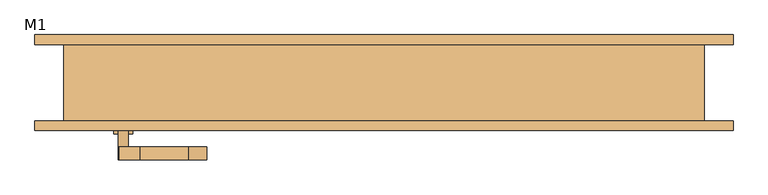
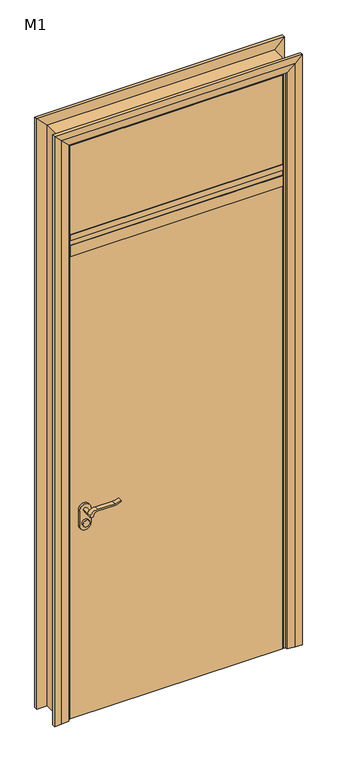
"""IFC4 building model written with IfcOpenShell, lengths in millimetres: door geometry, 单嵌板木门 13 : M1."""

from ifc_helpers import new_model, si_unit, point, frame, frame_2d, origin, origin_with_axes, place, context, project, spatial, polyline, circle_curve, trimmed, segment, composite_curve, outline, extrude, faceted_brep, source, transform, mapped, element, save


def m1_00d12191(model_context):
    return source(origin(), model_context, "Body", "SolidModel", [
        extrude(outline(composite_curve([segment(trimmed(circle_curve(frame_2d((900.0, -407.0)), 15.0), [point((900.0, -392.0))], [point((900.0, -422.0))], False, "CARTESIAN"), True, "CONTINUOUS"), segment(trimmed(circle_curve(frame_2d((900.0, -407.0)), 15.0), [point((900.0, -422.0))], [point((900.0, -392.0))], False, "CARTESIAN"), True, "CONTINUOUS")], self_intersect=False)), frame((0.0, -80.0, 0.0), z_axis=(0.0, 1.0, 0.0), x_axis=(0.0, 0.0, 1.0)), (0.0, 0.0, 1.0), 10.0),
        extrude(outline(composite_curve([segment(trimmed(circle_curve(frame_2d((900.0, -407.0)), 15.0), [point((900.0, -392.0))], [point((900.0, -422.0))], False, "CARTESIAN"), True, "CONTINUOUS"), segment(trimmed(circle_curve(frame_2d((900.0, -407.0)), 15.0), [point((900.0, -422.0))], [point((900.0, -392.0))], False, "CARTESIAN"), True, "CONTINUOUS")], self_intersect=False)), frame((0.0, 0.0, 0.0), z_axis=(0.0, 1.0, 0.0), x_axis=(0.0, 0.0, 1.0)), (0.0, 0.0, 1.0), 10.0),
        extrude(outline(composite_curve([segment(trimmed(circle_curve(frame_2d((960.0, -407.0)), 8.0), [point((964.6523287, -413.5081363))], [point((960.0, -399.0))], False, "CARTESIAN"), True, "CONTINUOUS"), segment(trimmed(circle_curve(frame_2d((954.8738613, -381.6138099)), 18.1261387), [point((960.0, -399.0))], [point((973.0, -381.6138099))], True, "CARTESIAN"), True, "CONTINUOUS"), segment(polyline([(973.0, -381.6138099), (973.0, -305.3564091)]), True, "CONTINUOUS"), segment(trimmed(circle_curve(frame_2d((1032.2709207, -308.9396612)), 59.3791355), [point((973.0, -305.3564091))], [point((982.2135558, -277.0))], False, "CARTESIAN"), True, "CONTINUOUS"), segment(polyline([(982.2135558, -277.0), (985.0, -277.0)]), True, "CONTINUOUS"), segment(trimmed(circle_curve(frame_2d((1063.2850638, -305.4227909)), 83.2850902), [point((985.0, -277.0))], [point((980.0, -305.3564091))], True, "CARTESIAN"), True, "CONTINUOUS"), segment(polyline([(980.0, -305.3564091), (980.0, -381.6325667)]), True, "CONTINUOUS"), segment(trimmed(circle_curve(frame_2d((942.7555521, -383.3324871)), 37.2832219), [point((980.0, -381.6325667))], [point((964.6523287, -413.5081363))], False, "CARTESIAN"), True, "CONTINUOUS")], self_intersect=False)), frame((0.0, -120.0, 0.0), z_axis=(0.0, 1.0, 0.0), x_axis=(0.0, 0.0, 1.0)), (0.0, 0.0, 1.0), 20.0),
        extrude(outline(composite_curve([segment(trimmed(circle_curve(frame_2d((954.8738682, -381.6138122)), 18.1261318), [point((959.9999903, -399.0))], [point((973.0, -381.6138122))], True, "CARTESIAN"), True, "CONTINUOUS"), segment(polyline([(973.0, -381.6138122), (973.0, -305.3564091)]), True, "CONTINUOUS"), segment(trimmed(circle_curve(frame_2d((1032.2709207, -308.9396612)), 59.3791355), [point((973.0, -305.3564091))], [point((982.2135558, -277.0))], False, "CARTESIAN"), True, "CONTINUOUS"), segment(polyline([(982.2135558, -277.0), (985.0, -277.0)]), True, "CONTINUOUS"), segment(trimmed(circle_curve(frame_2d((1063.2850638, -305.4227909)), 83.2850902), [point((985.0, -277.0))], [point((980.0, -305.3564091))], True, "CARTESIAN"), True, "CONTINUOUS"), segment(polyline([(980.0, -305.3564091), (980.0, -381.6325667)]), True, "CONTINUOUS"), segment(trimmed(circle_curve(frame_2d((942.7555521, -383.3324871)), 37.2832219), [point((980.0, -381.6325667))], [point((964.6523287, -413.5081363))], False, "CARTESIAN"), True, "CONTINUOUS"), segment(trimmed(circle_curve(frame_2d((960.0, -407.0)), 8.0), [point((964.6523287, -413.5081363))], [point((959.9999903, -399.0))], False, "CARTESIAN"), True, "CONTINUOUS")], self_intersect=False)), frame((0.0, 30.0, 0.0), z_axis=(0.0, 1.0, 0.0), x_axis=(0.0, 0.0, 1.0)), (0.0, 0.0, 1.0), 20.0),
        extrude(outline(composite_curve([segment(trimmed(circle_curve(frame_2d((960.0, -407.0)), 8.0), [point((960.0, -399.0))], [point((960.0, -415.0))], False, "CARTESIAN"), True, "CONTINUOUS"), segment(trimmed(circle_curve(frame_2d((960.0, -407.0)), 8.0), [point((960.0, -415.0))], [point((960.0, -399.0))], False, "CARTESIAN"), True, "CONTINUOUS")], self_intersect=False)), frame((0.0, -100.0, 0.0), z_axis=(0.0, 1.0, 0.0), x_axis=(0.0, 0.0, 1.0)), (0.0, 0.0, 1.0), 30.0),
        extrude(outline(composite_curve([segment(trimmed(circle_curve(frame_2d((960.0, -407.0)), 8.0), [point((960.0, -399.0))], [point((960.0, -415.0))], False, "CARTESIAN"), True, "CONTINUOUS"), segment(trimmed(circle_curve(frame_2d((960.0, -407.0)), 8.0), [point((960.0, -415.0))], [point((960.0, -399.0))], False, "CARTESIAN"), True, "CONTINUOUS")], self_intersect=False)), frame((0.0, 0.0, 0.0), z_axis=(0.0, 1.0, 0.0), x_axis=(0.0, 0.0, 1.0)), (0.0, 0.0, 1.0), 30.0),
        extrude(outline(composite_curve([segment(trimmed(circle_curve(frame_2d((890.0, -407.0)), 25.0), [point((890.0, -432.0))], [point((890.0, -382.0))], False, "CARTESIAN"), True, "CONTINUOUS"), segment(polyline([(890.0, -382.0), (960.0, -382.0)]), True, "CONTINUOUS"), segment(trimmed(circle_curve(frame_2d((960.0, -407.0)), 25.0), [point((960.0, -382.0))], [point((960.0, -432.0))], False, "CARTESIAN"), True, "CONTINUOUS"), segment(polyline([(960.0, -432.0), (890.0, -432.0)]), True, "CONTINUOUS")], self_intersect=False)), frame((0.0, -70.0, 0.0), z_axis=(0.0, 1.0, 0.0), x_axis=(0.0, 0.0, 1.0)), (0.0, 0.0, 1.0), 10.0),
        extrude(outline(composite_curve([segment(trimmed(circle_curve(frame_2d((890.0, -407.0)), 25.0), [point((890.0, -432.0))], [point((890.0, -382.0))], False, "CARTESIAN"), True, "CONTINUOUS"), segment(polyline([(890.0, -382.0), (960.0, -382.0)]), True, "CONTINUOUS"), segment(trimmed(circle_curve(frame_2d((960.0, -407.0)), 25.0), [point((960.0, -382.0))], [point((960.0, -432.0))], False, "CARTESIAN"), True, "CONTINUOUS"), segment(polyline([(960.0, -432.0), (890.0, -432.0)]), True, "CONTINUOUS")], self_intersect=False)), frame((0.0, -10.0, 0.0), z_axis=(0.0, 1.0, 0.0), x_axis=(0.0, 0.0, 1.0)), (0.0, 0.0, 1.0), 10.0),
        extrude(outline(polyline([(-467.0, -63.0), (-467.0, -7.0), (467.0, -7.0), (467.0, -63.0), (-467.0, -63.0)])), frame((0.0, 0.0, 2152.0), z_axis=(0.0, 0.0, 1.0), x_axis=(1.0, 0.0, 0.0)), (0.0, 0.0, 1.0), 50.0),
        extrude(outline(polyline([(-467.0, -63.0), (-467.0, -7.0), (467.0, -7.0), (467.0, -63.0), (-467.0, -63.0)])), frame((0.0, 0.0, 2227.0), z_axis=(0.0, 0.0, 1.0), x_axis=(1.0, 0.0, 0.0)), (0.0, 0.0, 1.0), 25.0),
        faceted_brep([(-470.0, -60.0, 0.0), (-500.0, -60.0, 0.0), (-500.0, 60.0, 0.0), (-455.0, 60.0, 0.0), (-455.0, -7.0, 0.0), (-470.0, -7.0, 0.0), (-470.0, -7.0, 2670.0), (-470.0, -60.0, 2670.0), (-455.0, -7.0, 2655.0), (-455.0, 60.0, 2655.0), (-500.0, 60.0, 2700.0), (-500.0, -60.0, 2700.0), (470.0, -7.0, 2670.0), (470.0, -60.0, 2670.0), (455.0, -7.0, 2655.0), (455.0, 60.0, 2655.0), (500.0, 60.0, 2700.0), (500.0, -60.0, 2700.0), (470.0, -60.0, 0.0), (470.0, -7.0, 0.0), (455.0, -7.0, 0.0), (455.0, 60.0, 0.0), (500.0, 60.0, 0.0), (500.0, -60.0, 0.0)], [[[0, 1, 2, 3, 4, 5]], [[5, 6, 7, 0]], [[4, 8, 6, 5]], [[3, 9, 8, 4]], [[2, 10, 9, 3]], [[1, 11, 10, 2]], [[0, 7, 11, 1]], [[6, 12, 13, 7]], [[8, 14, 12, 6]], [[9, 15, 14, 8]], [[10, 16, 15, 9]], [[11, 17, 16, 10]], [[7, 13, 17, 11]], [[18, 19, 20, 21, 22, 23]], [[12, 19, 18, 13]], [[14, 20, 19, 12]], [[15, 21, 20, 14]], [[16, 22, 21, 15]], [[17, 23, 22, 16]], [[13, 18, 23, 17]]]),
        extrude(outline(polyline([(467.0, -10.0), (467.0, -60.0), (-467.0, -60.0), (-467.0, -10.0), (467.0, -10.0)])), frame((0.0, 0.0, 2252.0), z_axis=(0.0, 0.0, 1.0), x_axis=(1.0, 0.0, 0.0)), (0.0, 0.0, 1.0), 415.0),
        extrude(outline(polyline([(467.0, -10.0), (467.0, -60.0), (-467.0, -60.0), (-467.0, -10.0), (467.0, -10.0)])), origin_with_axes(), (0.0, 0.0, 1.0), 2152.0),
        extrude(outline(polyline([(467.0, -10.0), (467.0, -60.0), (-467.0, -60.0), (-467.0, -10.0), (467.0, -10.0)])), frame((0.0, 0.0, 2202.0), z_axis=(0.0, 0.0, 1.0), x_axis=(1.0, 0.0, 0.0)), (0.0, 0.0, 1.0), 25.0),
        faceted_brep([(-545.0, -60.0, 0.0), (-480.0, -60.0, 0.0), (-480.0, -70.0, 0.0), (-515.0, -75.0, 0.0), (-545.0, -75.0, 0.0), (-545.0, -75.0, 2745.0), (-545.0, -60.0, 2745.0), (-515.0, -75.0, 2715.0), (-480.0, -70.0, 2680.0), (-480.0, -60.0, 2680.0), (545.0, -75.0, 2745.0), (545.0, -60.0, 2745.0), (515.0, -75.0, 2715.0), (480.0, -70.0, 2680.0), (480.0, -60.0, 2680.0), (545.0, -60.0, 0.0), (545.0, -75.0, 0.0), (515.0, -75.0, 0.0), (480.0, -70.0, 0.0), (480.0, -60.0, 0.0)], [[[0, 1, 2, 3, 4]], [[4, 5, 6, 0]], [[3, 7, 5, 4]], [[2, 8, 7, 3]], [[1, 9, 8, 2]], [[0, 6, 9, 1]], [[5, 10, 11, 6]], [[7, 12, 10, 5]], [[8, 13, 12, 7]], [[9, 14, 13, 8]], [[6, 11, 14, 9]], [[15, 16, 17, 18, 19]], [[10, 16, 15, 11]], [[12, 17, 16, 10]], [[13, 18, 17, 12]], [[14, 19, 18, 13]], [[11, 15, 19, 14]]]),
        faceted_brep([(-480.0, 70.0, 0.0), (-480.0, 60.0, 0.0), (-545.0, 60.0, 0.0), (-545.0, 75.0, 0.0), (-515.0, 75.0, 0.0), (-515.0, 75.0, 2715.0), (-480.0, 70.0, 2680.0), (-545.0, 75.0, 2745.0), (-545.0, 60.0, 2745.0), (-480.0, 60.0, 2680.0), (515.0, 75.0, 2715.0), (480.0, 70.0, 2680.0), (545.0, 75.0, 2745.0), (545.0, 60.0, 2745.0), (480.0, 60.0, 2680.0), (480.0, 70.0, 0.0), (515.0, 75.0, 0.0), (545.0, 75.0, 0.0), (545.0, 60.0, 0.0), (480.0, 60.0, 0.0)], [[[0, 1, 2, 3, 4]], [[4, 5, 6, 0]], [[3, 7, 5, 4]], [[2, 8, 7, 3]], [[1, 9, 8, 2]], [[0, 6, 9, 1]], [[5, 10, 11, 6]], [[7, 12, 10, 5]], [[8, 13, 12, 7]], [[9, 14, 13, 8]], [[6, 11, 14, 9]], [[15, 16, 17, 18, 19]], [[10, 16, 15, 11]], [[12, 17, 16, 10]], [[13, 18, 17, 12]], [[14, 19, 18, 13]], [[11, 15, 19, 14]]]),
    ])


if __name__ == "__main__":
    model = new_model("IFC4")
    model_context = context("Model", 3, world=origin())
    ifc_project = project(units=[si_unit("LENGTHUNIT", "METRE", prefix="MILLI")], contexts=[model_context])
    site = spatial("IfcSite", under=ifc_project)
    building = spatial("IfcBuilding", under=site)
    placement = place(None, origin())
    m1_shape = m1_00d12191(model_context)
    element("IfcDoor", 1, ObjectType="单嵌板木门 13 : M1", at=placement, inside=building, context=model_context, shape_type="MappedRepresentation", body=[
        mapped(m1_shape, transform((0.0, 0.0, 0.0), x_axis=(1.0, 0.0, 0.0), y_axis=(0.0, 1.0, 0.0), z_axis=(0.0, 0.0, 1.0))),
    ])
    save(model, "model.ifc")
